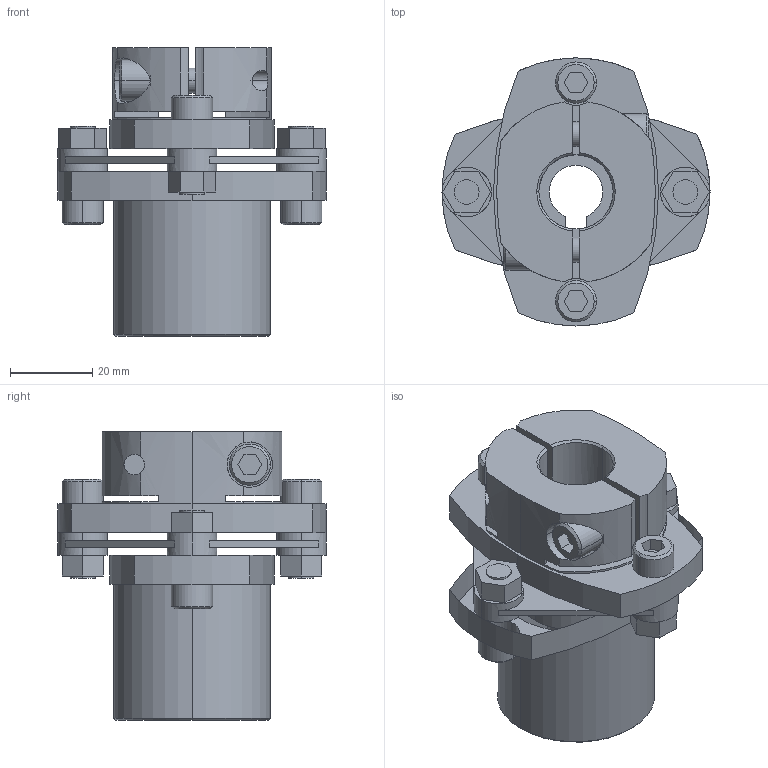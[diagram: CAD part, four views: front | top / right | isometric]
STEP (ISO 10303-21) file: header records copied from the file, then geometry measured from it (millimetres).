
FILE_DESCRIPTION((''),'2;1');
FILE_NAME('LCS-65M-16L亊18B.stp','2011-08-20T15:58:44',(''),(''),'AutoCAD STEP 2000i','AutoCAD 2000i',', , ');
FILE_SCHEMA(('CONFIG_CONTROL_DESIGN'));
Length unit declared in the file: millimetre
Products named in the file (8): LCS-65M-16L×16B; 忣兜1; LC65-B016; LC65M-L016; LC65M-L011; LC65-B014-1; LC65-B014; LCS65-ITA
Assembly tree (7 placements, depth 2):
  LCS-65M-16L×16B
    忣兜1
    LC65-B016
    LC65M-L016
    LC65M-L011
    LC65-B014-1
    LC65-B014
    LCS65-ITA
Bounding box: 65 x 65 x 70 mm (x, y, z)
Volume: 81691.2 mm3; surface area: 29343.6 mm2
Topology: 1 solids, 1 shells, 222 faces, 582 edges, 380 vertices
Faces by surface type: plane 115, cylinder 84, cone 23
Entity records: 7357 total; most frequent: CARTESIAN_POINT 1500, DIRECTION 1244, ORIENTED_EDGE 1164, EDGE_CURVE 582, AXIS2_PLACEMENT_3D 454, VERTEX_POINT 380, VECTOR 336, LINE 336
